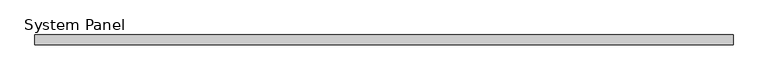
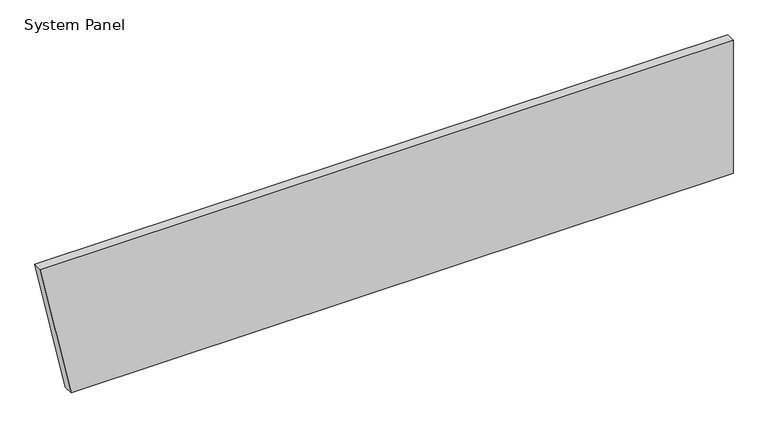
"""IFC4 building model written with IfcOpenShell, lengths in millimetres: plate geometry, System Panel : MetecnoPanel 75mm Horizontal - Plain Astro - PIR."""

from ifc_helpers import new_model, si_unit, frame, origin, place, context, project, spatial, polyline, outline, extrude, source, transform, mapped, element, save


def system_panel_356e011e(model_context):
    return source(origin(), model_context, "Body", "SweptSolid", [
        extrude(outline(polyline([(0.0, -2470.4338217), (0.0, 2709.5661783), (1100.0, 2709.5661783), (1100.0, -2709.5661783), (0.0, -2470.4338217)])), frame((0.0, -75.0, 0.0), z_axis=(0.0, 1.0, 0.0), x_axis=(0.0, 0.0, 1.0)), (0.0, 0.0, 1.0), 75.0),
    ])


if __name__ == "__main__":
    model = new_model("IFC4")
    model_context = context("Model", 3, world=origin())
    ifc_project = project(units=[si_unit("LENGTHUNIT", "METRE", prefix="MILLI")], contexts=[model_context])
    site = spatial("IfcSite", under=ifc_project)
    building = spatial("IfcBuilding", under=site)
    placement = place(None, origin())
    system_panel_shape = system_panel_356e011e(model_context)
    element("IfcPlate", 1, ObjectType="System Panel : MetecnoPanel 75mm Horizontal - Plain Astro - PIR", at=placement, inside=building, context=model_context, shape_type="MappedRepresentation", body=[
        mapped(system_panel_shape, transform((0.0, 0.0, 0.0), x_axis=(1.0, 0.0, 0.0), y_axis=(0.0, 1.0, 0.0), z_axis=(0.0, 0.0, 1.0))),
    ])
    save(model, "model.ifc")
